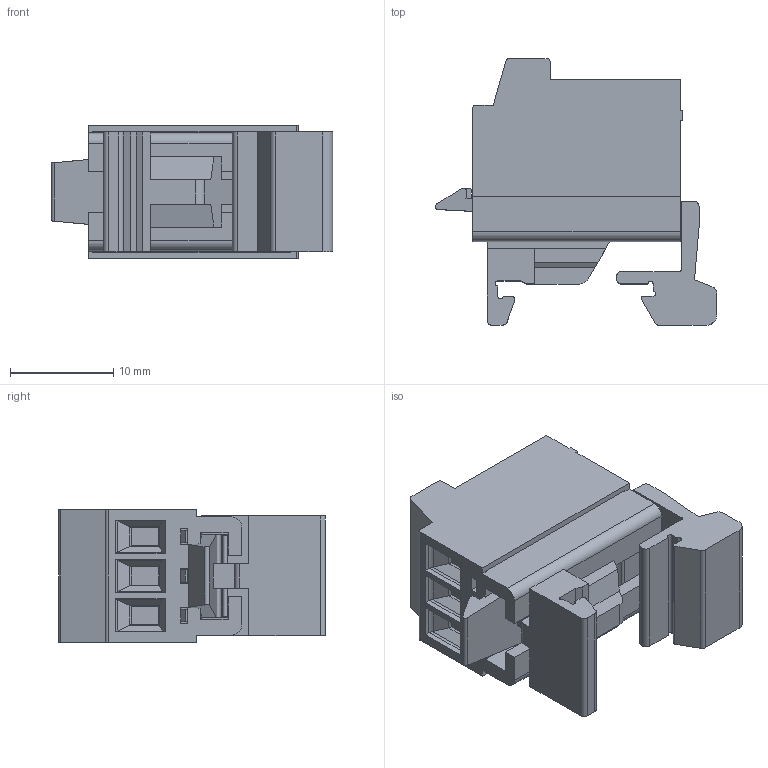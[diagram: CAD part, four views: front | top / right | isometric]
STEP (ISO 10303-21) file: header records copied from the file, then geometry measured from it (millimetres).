
FILE_DESCRIPTION((''),'2;1');
FILE_NAME('3PIN_SW0001','2019-05-14T',('zhenbing.lai'),(''),'CREO PARAMETRIC BY PTC INC, 2016260','CREO PARAMETRIC BY PTC INC, 2016260','');
FILE_SCHEMA(('CONFIG_CONTROL_DESIGN'));
Length unit declared in the file: millimetre
Products named in the file (1): 3PIN_SW0001
Bounding box: 27.2 x 25.8 x 12.82 mm (x, y, z)
Volume: 4173 mm3; surface area: 4237.1 mm2
Topology: 1 solids, 1 shells, 441 faces, 1300 edges, 864 vertices
Faces by surface type: plane 315, cylinder 93, cone 15, torus 12, bspline 6
Entity records: 17879 total; most frequent: CARTESIAN_POINT 6161, ORIENTED_EDGE 2600, DIRECTION 2214, EDGE_CURVE 1300, VECTOR 898, LINE 898, VERTEX_POINT 864, AXIS2_PLACEMENT_3D 658
